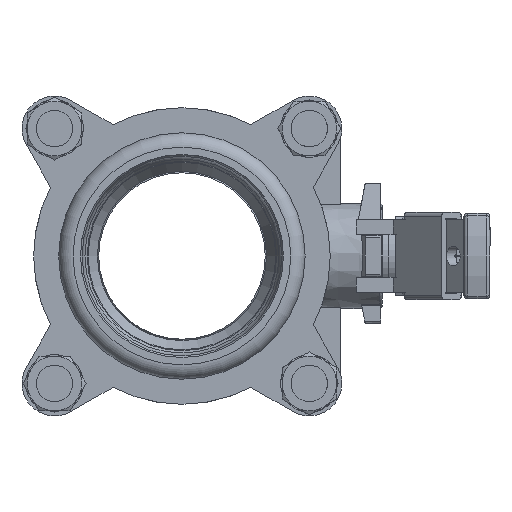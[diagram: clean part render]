
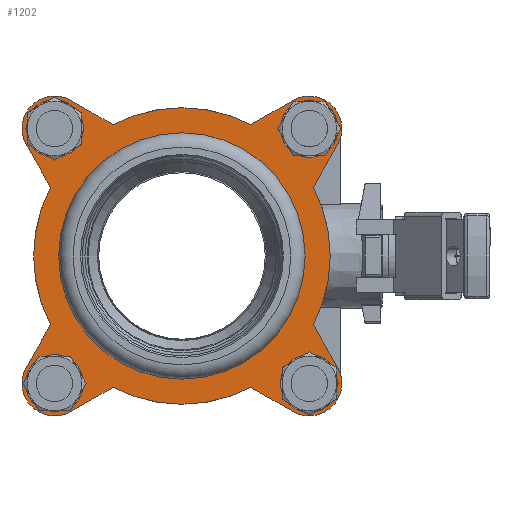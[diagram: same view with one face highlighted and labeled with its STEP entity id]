
A CAD part, front view. The second image highlights one B-rep face of the part: STEP entity #1202.
In plain terms, the highlighted planar face has unit normal (0, -1, 0).
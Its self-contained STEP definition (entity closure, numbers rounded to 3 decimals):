
#1202=ADVANCED_FACE('',(#2366,#2367,#2368,#2369,#2370,#2371),#2372,.T.);
#2366=FACE_OUTER_BOUND('',#3751,.T.);
#2367=FACE_BOUND('',#3752,.T.);
#2368=FACE_BOUND('',#3753,.T.);
#2369=FACE_BOUND('',#3754,.T.);
#2370=FACE_BOUND('',#3755,.T.);
#2371=FACE_BOUND('',#3756,.T.);
#2372=PLANE('',#3757);
#3751=EDGE_LOOP('',(#5838,#5839,#5840,#5841,#5842,#5843,#5844,#5845,#5846,#5847,#5848,#5849,#5850,#5851,#5852,#5853));
#3752=EDGE_LOOP('',(#5854));
#3753=EDGE_LOOP('',(#5855));
#3754=EDGE_LOOP('',(#5856));
#3755=EDGE_LOOP('',(#5857));
#3756=EDGE_LOOP('',(#5858));
#3757=AXIS2_PLACEMENT_3D('',#5859,#5860,#5861);
#5838=ORIENTED_EDGE('',*,*,#8371,.F.);
#5839=ORIENTED_EDGE('',*,*,#8366,.F.);
#5840=ORIENTED_EDGE('',*,*,#8380,.F.);
#5841=ORIENTED_EDGE('',*,*,#8375,.F.);
#5842=ORIENTED_EDGE('',*,*,#8381,.F.);
#5843=ORIENTED_EDGE('',*,*,#8382,.F.);
#5844=ORIENTED_EDGE('',*,*,#8383,.F.);
#5845=ORIENTED_EDGE('',*,*,#8384,.F.);
#5846=ORIENTED_EDGE('',*,*,#8385,.F.);
#5847=ORIENTED_EDGE('',*,*,#8386,.F.);
#5848=ORIENTED_EDGE('',*,*,#8387,.F.);
#5849=ORIENTED_EDGE('',*,*,#8388,.F.);
#5850=ORIENTED_EDGE('',*,*,#8389,.F.);
#5851=ORIENTED_EDGE('',*,*,#8390,.F.);
#5852=ORIENTED_EDGE('',*,*,#8391,.F.);
#5853=ORIENTED_EDGE('',*,*,#8392,.F.);
#5854=ORIENTED_EDGE('',*,*,#8393,.F.);
#5855=ORIENTED_EDGE('',*,*,#8394,.F.);
#5856=ORIENTED_EDGE('',*,*,#8395,.F.);
#5857=ORIENTED_EDGE('',*,*,#8396,.F.);
#5858=ORIENTED_EDGE('',*,*,#8397,.F.);
#5859=CARTESIAN_POINT('',(90.457,-56.5,0.));
#5860=DIRECTION('',(0.,-1.0,0.0));
#5861=DIRECTION('',(0.0,0.0,1.0));
#8366=EDGE_CURVE('',#9738,#9739,#9740,.T.);
#8371=EDGE_CURVE('',#9739,#9747,#9748,.T.);
#8375=EDGE_CURVE('',#9753,#9754,#9755,.T.);
#8380=EDGE_CURVE('',#9754,#9738,#9762,.T.);
#8381=EDGE_CURVE('',#9763,#9753,#9764,.T.);
#8382=EDGE_CURVE('',#9765,#9763,#9766,.T.);
#8383=EDGE_CURVE('',#9767,#9765,#9768,.T.);
#8384=EDGE_CURVE('',#9769,#9767,#9770,.T.);
#8385=EDGE_CURVE('',#9771,#9769,#9772,.T.);
#8386=EDGE_CURVE('',#9773,#9771,#9774,.T.);
#8387=EDGE_CURVE('',#9775,#9773,#9776,.T.);
#8388=EDGE_CURVE('',#9777,#9775,#9778,.T.);
#8389=EDGE_CURVE('',#9779,#9777,#9780,.T.);
#8390=EDGE_CURVE('',#9781,#9779,#9782,.T.);
#8391=EDGE_CURVE('',#9783,#9781,#9784,.T.);
#8392=EDGE_CURVE('',#9747,#9783,#9785,.T.);
#8393=EDGE_CURVE('',#9786,#9786,#9787,.T.);
#8394=EDGE_CURVE('',#9788,#9788,#9789,.T.);
#8395=EDGE_CURVE('',#9790,#9790,#9791,.T.);
#8396=EDGE_CURVE('',#9792,#9792,#9793,.T.);
#8397=EDGE_CURVE('',#9794,#9794,#9795,.T.);
#9738=VERTEX_POINT('',#12013);
#9739=VERTEX_POINT('',#12014);
#9740=LINE('',#12015,#12016);
#9747=VERTEX_POINT('',#12026);
#9748=CIRCLE('',#12027,12.5);
#9753=VERTEX_POINT('',#12033);
#9754=VERTEX_POINT('',#12034);
#9755=LINE('',#12035,#12036);
#9762=CIRCLE('',#12046,57.0);
#9763=VERTEX_POINT('',#12047);
#9764=CIRCLE('',#12048,12.5);
#9765=VERTEX_POINT('',#12049);
#9766=LINE('',#12050,#12051);
#9767=VERTEX_POINT('',#12052);
#9768=CIRCLE('',#12053,57.0);
#9769=VERTEX_POINT('',#12054);
#9770=LINE('',#12055,#12056);
#9771=VERTEX_POINT('',#12057);
#9772=CIRCLE('',#12058,12.5);
#9773=VERTEX_POINT('',#12059);
#9774=LINE('',#12060,#12061);
#9775=VERTEX_POINT('',#12062);
#9776=CIRCLE('',#12063,57.0);
#9777=VERTEX_POINT('',#12064);
#9778=LINE('',#12065,#12066);
#9779=VERTEX_POINT('',#12067);
#9780=CIRCLE('',#12068,12.5);
#9781=VERTEX_POINT('',#12069);
#9782=LINE('',#12070,#12071);
#9783=VERTEX_POINT('',#12072);
#9784=CIRCLE('',#12073,57.0);
#9785=LINE('',#12074,#12075);
#9786=VERTEX_POINT('',#12076);
#9787=CIRCLE('',#12077,7.25);
#9788=VERTEX_POINT('',#12078);
#9789=CIRCLE('',#12079,7.25);
#9790=VERTEX_POINT('',#12080);
#9791=CIRCLE('',#12081,7.25);
#9792=VERTEX_POINT('',#12082);
#9793=CIRCLE('',#12083,7.25);
#9794=VERTEX_POINT('',#12084);
#9795=CIRCLE('',#12085,39.0);
#12013=CARTESIAN_POINT('',(-26.45,-56.5,-50.492));
#12014=CARTESIAN_POINT('',(-42.763,-56.5,-59.819));
#12015=CARTESIAN_POINT('',(-26.45,-56.5,-50.492));
#12016=VECTOR('',#14602,1.0);
#12026=CARTESIAN_POINT('',(-59.819,-56.5,-42.763));
#12027=AXIS2_PLACEMENT_3D('',#14606,#14607,#14608);
#12033=CARTESIAN_POINT('',(42.763,-56.5,-59.819));
#12034=CARTESIAN_POINT('',(26.45,-56.5,-50.492));
#12035=CARTESIAN_POINT('',(42.763,-56.5,-59.819));
#12036=VECTOR('',#14613,1.0);
#12046=AXIS2_PLACEMENT_3D('',#14617,#14618,#14619);
#12047=CARTESIAN_POINT('',(59.819,-56.5,-42.763));
#12048=AXIS2_PLACEMENT_3D('',#14620,#14621,#14622);
#12049=CARTESIAN_POINT('',(50.492,-56.5,-26.45));
#12050=CARTESIAN_POINT('',(50.492,-56.5,-26.45));
#12051=VECTOR('',#14623,1.0);
#12052=CARTESIAN_POINT('',(50.492,-56.5,26.45));
#12053=AXIS2_PLACEMENT_3D('',#14624,#14625,#14626);
#12054=CARTESIAN_POINT('',(59.819,-56.5,42.763));
#12055=CARTESIAN_POINT('',(59.819,-56.5,42.763));
#12056=VECTOR('',#14627,1.0);
#12057=CARTESIAN_POINT('',(42.763,-56.5,59.819));
#12058=AXIS2_PLACEMENT_3D('',#14628,#14629,#14630);
#12059=CARTESIAN_POINT('',(26.45,-56.5,50.492));
#12060=CARTESIAN_POINT('',(26.45,-56.5,50.492));
#12061=VECTOR('',#14631,1.0);
#12062=CARTESIAN_POINT('',(-26.45,-56.5,50.492));
#12063=AXIS2_PLACEMENT_3D('',#14632,#14633,#14634);
#12064=CARTESIAN_POINT('',(-42.763,-56.5,59.819));
#12065=CARTESIAN_POINT('',(-42.763,-56.5,59.819));
#12066=VECTOR('',#14635,1.0);
#12067=CARTESIAN_POINT('',(-59.819,-56.5,42.763));
#12068=AXIS2_PLACEMENT_3D('',#14636,#14637,#14638);
#12069=CARTESIAN_POINT('',(-50.492,-56.5,26.45));
#12070=CARTESIAN_POINT('',(-50.492,-56.5,26.45));
#12071=VECTOR('',#14639,1.0);
#12072=CARTESIAN_POINT('',(-50.492,-56.5,-26.45));
#12073=AXIS2_PLACEMENT_3D('',#14640,#14641,#14642);
#12074=CARTESIAN_POINT('',(-59.819,-56.5,-42.763));
#12075=VECTOR('',#14643,1.0);
#12076=CARTESIAN_POINT('',(-48.967,-56.5,-56.217));
#12077=AXIS2_PLACEMENT_3D('',#14644,#14645,#14646);
#12078=CARTESIAN_POINT('',(48.967,-56.5,-56.217));
#12079=AXIS2_PLACEMENT_3D('',#14647,#14648,#14649);
#12080=CARTESIAN_POINT('',(48.967,-56.5,41.717));
#12081=AXIS2_PLACEMENT_3D('',#14650,#14651,#14652);
#12082=CARTESIAN_POINT('',(-48.967,-56.5,41.717));
#12083=AXIS2_PLACEMENT_3D('',#14653,#14654,#14655);
#12084=CARTESIAN_POINT('',(0.,-56.5,-39.0));
#12085=AXIS2_PLACEMENT_3D('',#14656,#14657,#14658);
#14602=DIRECTION('',(-0.868,0.,-0.496));
#14606=CARTESIAN_POINT('',(-48.967,-56.5,-48.967));
#14607=DIRECTION('',(0.,1.0,0.));
#14608=DIRECTION('',(0.,0.,1.0));
#14613=DIRECTION('',(-0.868,0.,0.496));
#14617=CARTESIAN_POINT('',(0.,-56.5,0.));
#14618=DIRECTION('',(0.,1.0,0.));
#14619=DIRECTION('',(0.,0.,1.0));
#14620=CARTESIAN_POINT('',(48.967,-56.5,-48.967));
#14621=DIRECTION('',(0.,1.0,0.));
#14622=DIRECTION('',(0.,0.,1.0));
#14623=DIRECTION('',(0.496,0.,-0.868));
#14624=CARTESIAN_POINT('',(0.,-56.5,0.));
#14625=DIRECTION('',(0.,1.0,0.));
#14626=DIRECTION('',(0.,0.,1.0));
#14627=DIRECTION('',(-0.496,0.,-0.868));
#14628=CARTESIAN_POINT('',(48.967,-56.5,48.967));
#14629=DIRECTION('',(0.,1.0,0.));
#14630=DIRECTION('',(0.,0.,1.0));
#14631=DIRECTION('',(0.868,0.,0.496));
#14632=CARTESIAN_POINT('',(0.,-56.5,0.));
#14633=DIRECTION('',(0.,1.0,0.));
#14634=DIRECTION('',(0.,0.,1.0));
#14635=DIRECTION('',(0.868,0.,-0.496));
#14636=CARTESIAN_POINT('',(-48.967,-56.5,48.967));
#14637=DIRECTION('',(0.,1.0,0.));
#14638=DIRECTION('',(0.,0.,1.0));
#14639=DIRECTION('',(-0.496,0.,0.868));
#14640=CARTESIAN_POINT('',(0.,-56.5,0.));
#14641=DIRECTION('',(0.,1.0,0.));
#14642=DIRECTION('',(0.,0.,1.0));
#14643=DIRECTION('',(0.496,0.,0.868));
#14644=CARTESIAN_POINT('',(-48.967,-56.5,-48.967));
#14645=DIRECTION('',(0.,-1.0,0.));
#14646=DIRECTION('',(0.,0.,-1.0));
#14647=CARTESIAN_POINT('',(48.967,-56.5,-48.967));
#14648=DIRECTION('',(0.,-1.0,0.));
#14649=DIRECTION('',(0.,0.,-1.0));
#14650=CARTESIAN_POINT('',(48.967,-56.5,48.967));
#14651=DIRECTION('',(0.,-1.0,0.));
#14652=DIRECTION('',(0.,0.,-1.0));
#14653=CARTESIAN_POINT('',(-48.967,-56.5,48.967));
#14654=DIRECTION('',(0.,-1.0,0.));
#14655=DIRECTION('',(0.,0.,-1.0));
#14656=CARTESIAN_POINT('',(0.,-56.5,0.));
#14657=DIRECTION('',(0.,-1.0,-0.0));
#14658=DIRECTION('',(0.0,0.0,-1.0));
